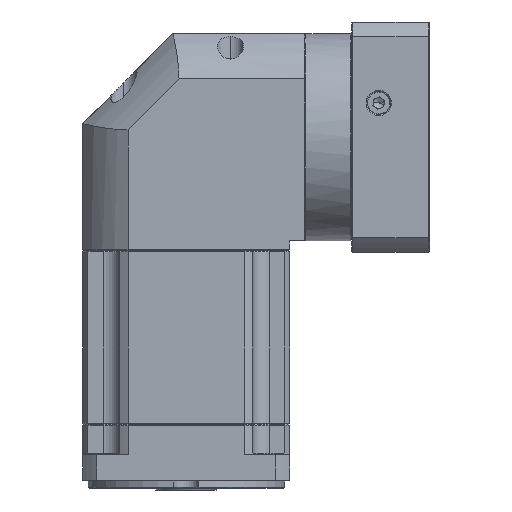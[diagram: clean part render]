
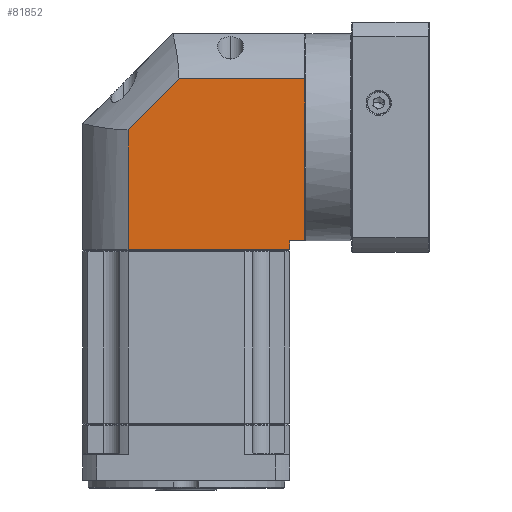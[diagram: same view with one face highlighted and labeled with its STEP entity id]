
A CAD part, front view. The second image highlights one B-rep face of the part: STEP entity #81852.
In plain terms, the highlighted planar face has unit normal (0, -1, 0).
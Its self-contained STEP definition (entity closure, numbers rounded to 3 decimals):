
#798 = VERTEX_POINT ( 'NONE', #82156 ) ;
#1547 = PLANE ( 'NONE',  #47634 ) ;
#2780 = CARTESIAN_POINT ( 'NONE',  ( -20.251, 0.231, 28.534 ) ) ;
#4496 = VERTEX_POINT ( 'NONE', #117118 ) ;
#6529 = VERTEX_POINT ( 'NONE', #121385 ) ;
#9097 = EDGE_CURVE ( 'NONE', #124070, #48478, #52253, .T. ) ;
#9775 = FACE_OUTER_BOUND ( 'NONE', #44533, .T. ) ;
#10845 = VECTOR ( 'NONE', #70522, 1000. ) ;
#11919 = DIRECTION ( 'NONE',  ( -1., 0., 0. ) ) ;
#14973 = VECTOR ( 'NONE', #20739, 1000. ) ;
#15037 = VERTEX_POINT ( 'NONE', #26714 ) ;
#20739 = DIRECTION ( 'NONE',  ( 0., 0., -1. ) ) ;
#22626 = ORIENTED_EDGE ( 'NONE', *, *, #34439, .F. ) ;
#26714 = CARTESIAN_POINT ( 'NONE',  ( 33.188, 0.231, 28.534 ) ) ;
#33684 = VECTOR ( 'NONE', #114100, 1000. ) ;
#34439 = EDGE_CURVE ( 'NONE', #798, #6529, #95242, .T. ) ;
#34677 = CARTESIAN_POINT ( 'NONE',  ( 4.849, 0.231, -72.865 ) ) ;
#37007 = ORIENTED_EDGE ( 'NONE', *, *, #68287, .F. ) ;
#38668 = EDGE_CURVE ( 'NONE', #15037, #124070, #60743, .T. ) ;
#39500 = VECTOR ( 'NONE', #11919, 1000. ) ;
#40743 = VECTOR ( 'NONE', #97430, 1000. ) ;
#44533 = EDGE_LOOP ( 'NONE', ( #37007, #101871, #58545, #63376, #101142, #83428, #22626 ) ) ;
#45973 = CARTESIAN_POINT ( 'NONE',  ( 103.149, 0.231, -61.365 ) ) ;
#47059 = VERTEX_POINT ( 'NONE', #116559 ) ;
#47634 = AXIS2_PLACEMENT_3D ( 'NONE', #53242, #124015, #83993 ) ;
#47978 = DIRECTION ( 'NONE',  ( 0.707, 0., 0.707 ) ) ;
#48478 = VERTEX_POINT ( 'NONE', #45973 ) ;
#50022 = DIRECTION ( 'NONE',  ( -1., 0., 0. ) ) ;
#50070 = VECTOR ( 'NONE', #50022, 1000. ) ;
#52253 = LINE ( 'NONE', #121257, #10845 ) ;
#53242 = CARTESIAN_POINT ( 'NONE',  ( -20.251, 0.231, -72.865 ) ) ;
#58545 = ORIENTED_EDGE ( 'NONE', *, *, #9097, .F. ) ;
#60743 = LINE ( 'NONE', #2780, #33684 ) ;
#63137 = CARTESIAN_POINT ( 'NONE',  ( -20.251, 0.231, -66.365 ) ) ;
#63376 = ORIENTED_EDGE ( 'NONE', *, *, #38668, .F. ) ;
#68287 = EDGE_CURVE ( 'NONE', #4496, #798, #108946, .T. ) ;
#70030 = EDGE_CURVE ( 'NONE', #48478, #4496, #128090, .T. ) ;
#70522 = DIRECTION ( 'NONE',  ( 0., 0., -1. ) ) ;
#80430 = CARTESIAN_POINT ( 'NONE',  ( 94.749, 0.231, -72.865 ) ) ;
#81852 = ADVANCED_FACE ( 'NONE', ( #9775 ), #1547, .F. ) ;
#82156 = CARTESIAN_POINT ( 'NONE',  ( 94.749, 0.231, -66.365 ) ) ;
#83428 = ORIENTED_EDGE ( 'NONE', *, *, #86683, .F. ) ;
#83993 = DIRECTION ( 'NONE',  ( 1., 0., 0. ) ) ;
#85395 = LINE ( 'NONE', #34677, #40743 ) ;
#86683 = EDGE_CURVE ( 'NONE', #6529, #47059, #85395, .T. ) ;
#90147 = CARTESIAN_POINT ( 'NONE',  ( 4.849, 0.231, 0.196 ) ) ;
#94803 = LINE ( 'NONE', #90147, #120219 ) ;
#95242 = LINE ( 'NONE', #63137, #39500 ) ;
#97430 = DIRECTION ( 'NONE',  ( 0., 0., 1. ) ) ;
#101142 = ORIENTED_EDGE ( 'NONE', *, *, #116975, .F. ) ;
#101871 = ORIENTED_EDGE ( 'NONE', *, *, #70030, .F. ) ;
#108946 = LINE ( 'NONE', #80430, #14973 ) ;
#114100 = DIRECTION ( 'NONE',  ( 1., 0., 0. ) ) ;
#116559 = CARTESIAN_POINT ( 'NONE',  ( 4.849, 0.231, 0.196 ) ) ;
#116975 = EDGE_CURVE ( 'NONE', #47059, #15037, #94803, .T. ) ;
#117118 = CARTESIAN_POINT ( 'NONE',  ( 94.749, 0.231, -61.365 ) ) ;
#120219 = VECTOR ( 'NONE', #47978, 1000. ) ;
#121257 = CARTESIAN_POINT ( 'NONE',  ( 103.149, 0.231, -72.865 ) ) ;
#121385 = CARTESIAN_POINT ( 'NONE',  ( 4.849, 0.231, -66.365 ) ) ;
#124015 = DIRECTION ( 'NONE',  ( 0., 1., 0. ) ) ;
#124070 = VERTEX_POINT ( 'NONE', #124595 ) ;
#124595 = CARTESIAN_POINT ( 'NONE',  ( 103.149, 0.231, 28.534 ) ) ;
#128090 = LINE ( 'NONE', #129709, #50070 ) ;
#129709 = CARTESIAN_POINT ( 'NONE',  ( -20.251, 0.231, -61.365 ) ) ;
